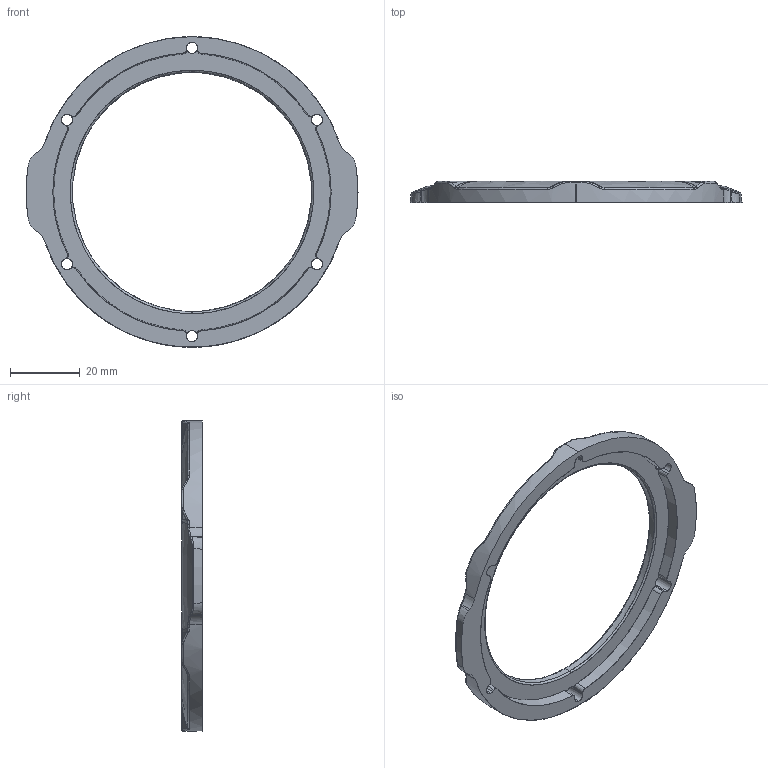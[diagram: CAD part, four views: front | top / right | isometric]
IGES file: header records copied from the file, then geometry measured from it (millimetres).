
Start section: SolidWorks IGES file using analytic representation for surfaces
Global section: file name: C:\Users\Achilles\Dropbox\BR-Engineering\PROJECTS\WTE3\MODELS\DEVELOPMENT\WTE3-P-RETAINING-RING-R1\WTE3-P-RETAINING-RING-R1.IGS; native system: SolidWorks 2016; preprocessor: SolidWorks 2016; author: Achilles; date: 181016.155146; units: millimetre
Bounding box: 95 x 6 x 88.9 mm (x, y, z)
Surface area: 7980 mm2 (no closed solid volume)
Topology: 0 solids, 0 shells, 240 faces, 2032 edges, 2032 vertices
Faces by surface type: bspline 199, revolution 41
